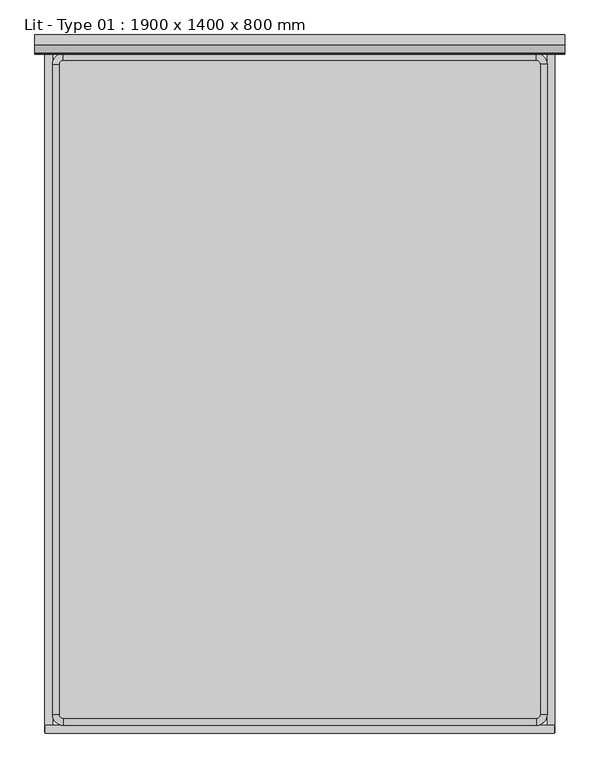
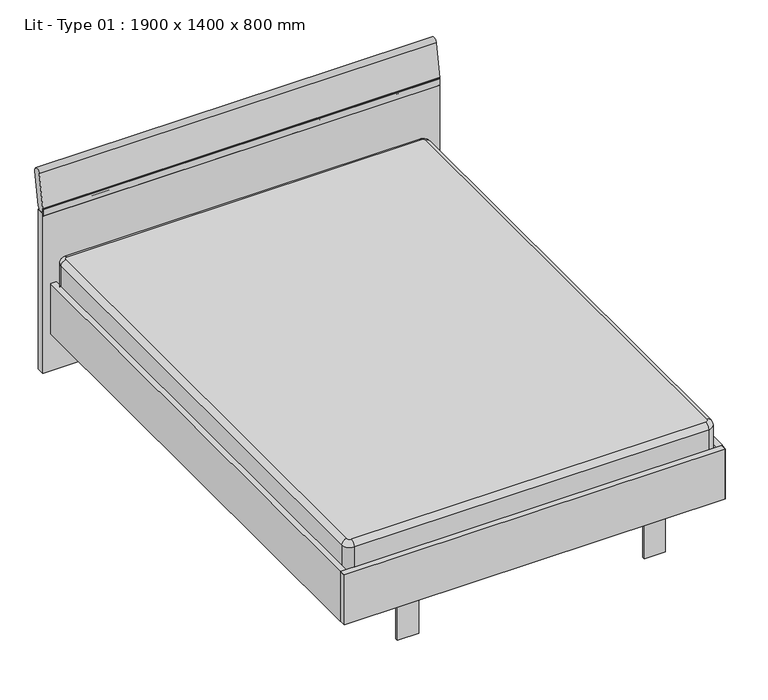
"""IFC4 building model written with IfcOpenShell, lengths in millimetres: furniture geometry, Lit - Type 01 : 1900 x 1400 x 800 mm."""

from ifc_helpers import new_model, si_unit, point, frame, frame_2d, origin, origin_with_axes, place, context, project, spatial, polyline, circle_curve, ellipse_curve, trimmed, segment, composite_curve, outline, extrude, faceted_brep, source, transform, mapped, element, save
from ifc_brep_helpers import plane_surface, cylinder_surface, revolved_surface, advanced_brep


def lit_type_01_1900_x_1400_x_800_mm_54b6f71a(model_context):
    return source(origin(), model_context, "Body", "SolidModel", [
        faceted_brep([(720.5857864, -1922.0, 150.0), (720.5857864, -1922.0, 350.0), (-720.5857864, -1922.0, 350.0), (-720.5857864, -1922.0, 150.0), (720.5857864, -1900.0, 350.0), (720.5857864, -1900.0, 150.0), (-720.5857864, -1900.0, 150.0), (-720.5857864, -1900.0, 350.0), (722.0, -1901.4142136, 348.5857864), (722.0, -1920.5857864, 348.5857864), (722.0, -1920.5857864, 151.4142136), (722.0, -1901.4142136, 151.4142136), (-722.0, -1920.5857864, 348.5857864), (-722.0, -1901.4142136, 348.5857864), (-722.0, -1901.4142136, 151.4142136), (-722.0, -1920.5857864, 151.4142136)], [[[0, 1, 2, 3]], [[4, 5, 6, 7]], [[8, 9, 10, 11]], [[5, 0, 3, 6]], [[12, 13, 14, 15]], [[1, 4, 7, 2]], [[8, 4, 1, 9]], [[4, 8, 11, 5]], [[5, 11, 10, 0]], [[9, 1, 0, 10]], [[12, 2, 7, 13]], [[2, 12, 15, 3]], [[3, 15, 14, 6]], [[13, 7, 6, 14]]]),
        extrude(outline(polyline([(-722.0, 0.0), (-700.0, 0.0), (-700.0, -1900.0), (-720.5857864, -1900.0), (-722.0, -1898.5857864), (-722.0, 0.0)])), frame((0.0, 0.0, 150.0), z_axis=(0.0, 0.0, 1.0), x_axis=(1.0, 0.0, 0.0)), (0.0, 0.0, 1.0), 200.0),
        extrude(outline(polyline([(700.0, 0.0), (722.0, 0.0), (722.0, -1898.5857864), (720.5857864, -1900.0), (700.0, -1900.0), (700.0, 0.0)])), frame((0.0, 0.0, 150.0), z_axis=(0.0, 0.0, 1.0), x_axis=(1.0, 0.0, 0.0)), (0.0, 0.0, 1.0), 200.0),
        advanced_brep(
        [(-680.0, -1870.0, 450.0), (-670.0, -1880.0, 450.0), (670.0, -1880.0, 450.0), (680.0, -1870.0, 450.0), (680.0, -30.0, 450.0), (670.0, -20.0, 450.0), (-670.0, -20.0, 450.0), (-680.0, -30.0, 450.0), (670.0, 0.0, 200.0), (700.0, -30.0, 200.0), (700.0, -1870.0, 200.0), (670.0, -1900.0, 200.0), (-670.0, -1900.0, 200.0), (-700.0, -1870.0, 200.0), (-700.0, -30.0, 200.0), (-670.0, 0.0, 200.0), (-670.0, 0.0, 430.0), (670.0, 0.0, 430.0), (-700.0, -30.0, 429.9999998), (-700.0, -1870.0, 429.9999998), (-670.0, -1900.0, 429.9999998), (670.0, -1900.0, 430.0), (700.0, -1870.0, 429.9999998), (700.0, -30.0, 430.0)],
        [
            (0, 1, circle_curve(frame((-670.0, -1870.0, 450.0), z_axis=(0.0, 0.0, 1.0), x_axis=(-1.0, 0.0, 0.0)), 10.0)),
            (1, 2),
            (2, 3, circle_curve(frame((670.0, -1870.0, 450.0), z_axis=(0.0, 0.0, 1.0), x_axis=(0.0, -1.0, 0.0)), 10.0)),
            (3, 4),
            (4, 5, circle_curve(frame((670.0, -30.0, 450.0), z_axis=(0.0, 0.0, 1.0), x_axis=(1.0, 0.0, 0.0)), 10.0)),
            (5, 6),
            (6, 7, circle_curve(frame((-670.0, -30.0, 450.0), z_axis=(0.0, 0.0, 1.0), x_axis=(0.0, 1.0, 0.0)), 10.0)),
            (7, 0),
            (8, 9, circle_curve(frame((670.0, -30.0, 200.0), z_axis=(0.0, 0.0, -1.0), x_axis=(-1.0, 0.0, 0.0)), 30.0)),
            (9, 10),
            (10, 11, circle_curve(frame((670.0, -1870.0, 200.0), z_axis=(0.0, 0.0, -1.0), x_axis=(-1.0, 0.0, 0.0)), 30.0)),
            (11, 12),
            (12, 13, circle_curve(frame((-670.0, -1870.0, 200.0), z_axis=(0.0, 0.0, -1.0), x_axis=(-1.0, 0.0, 0.0)), 30.0)),
            (13, 14),
            (14, 15, circle_curve(frame((-670.0, -30.0, 200.0), z_axis=(0.0, 0.0, -1.0), x_axis=(-1.0, 0.0, 0.0)), 30.0)),
            (15, 8),
            (15, 16),
            (16, 17),
            (17, 8),
            (14, 18),
            (18, 16, circle_curve(frame((-670.0, -30.0, 430.0), z_axis=(0.0, 0.0, -1.0), x_axis=(-1.0, 0.0, 0.0)), 30.0)),
            (13, 19),
            (19, 18),
            (12, 20),
            (20, 19, circle_curve(frame((-670.0, -1870.0, 430.0), z_axis=(0.0, 0.0, -1.0), x_axis=(-1.0, 0.0, 0.0)), 30.0)),
            (11, 21),
            (21, 20),
            (10, 22),
            (22, 21, circle_curve(frame((670.0, -1870.0, 430.0), z_axis=(0.0, 0.0, -1.0), x_axis=(-1.0, 0.0, 0.0)), 30.0)),
            (9, 23),
            (23, 22),
            (17, 23, circle_curve(frame((670.0, -30.0, 430.0), z_axis=(0.0, 0.0, -1.0), x_axis=(-1.0, 0.0, 0.0)), 30.0)),
            (20, 1, circle_curve(frame((-670.0, -1880.0, 430.0), z_axis=(-1.0, 0.0, 0.0), x_axis=(0.0, 1.0, 0.0)), 20.0)),
            (0, 19, circle_curve(frame((-680.0, -1870.0, 430.0), z_axis=(0.0, -1.0, 0.0), x_axis=(1.0, 0.0, 0.0)), 20.0)),
            (21, 2, circle_curve(frame((670.0, -1880.0, 430.0), z_axis=(-1.0, 0.0, 0.0), x_axis=(0.0, 1.0, 0.0)), 20.0)),
            (22, 3, circle_curve(frame((680.0, -1870.0, 430.0), z_axis=(0.0, -1.0, 0.0), x_axis=(-1.0, 0.0, 0.0)), 20.0)),
            (23, 4, circle_curve(frame((680.0, -30.0, 430.0), z_axis=(0.0, -1.0, 0.0), x_axis=(-1.0, 0.0, 0.0)), 20.0)),
            (17, 5, circle_curve(frame((670.0, -20.0, 430.0), z_axis=(1.0, 0.0, 0.0), x_axis=(0.0, -1.0, 0.0)), 20.0)),
            (16, 6, circle_curve(frame((-670.0, -20.0, 430.0), z_axis=(1.0, 0.0, 0.0), x_axis=(0.0, -1.0, 0.0)), 20.0)),
            (18, 7, circle_curve(frame((-680.0, -30.0, 430.0), z_axis=(0.0, 1.0, 0.0), x_axis=(1.0, 0.0, 0.0)), 20.0)),
        ],
        [
            plane_surface(frame((-670.0, 0.0, 450.0), z_axis=(0.0, 0.0, 1.0), x_axis=(-1.0, 0.0, 0.0))),
            plane_surface(frame((-670.0, 0.0, 200.0), z_axis=(0.0, 0.0, -1.0), x_axis=(1.0, 0.0, 0.0))),
            plane_surface(frame((670.0, 0.0, 450.0), z_axis=(0.0, 1.0, 0.0), x_axis=(0.0, 0.0, -1.0))),
            cylinder_surface(frame((-670.0, -30.0, 200.0), z_axis=(0.0, 0.0, 1.0), x_axis=(-1.0, 0.0, 0.0)), 30.0),
            plane_surface(frame((-700.0, -30.0, 450.0), z_axis=(-1.0, 0.0, 0.0), x_axis=(0.0, 0.0, -1.0))),
            cylinder_surface(frame((-670.0, -1870.0, 200.0), z_axis=(0.0, 0.0, 1.0), x_axis=(-1.0, 0.0, 0.0)), 30.0),
            plane_surface(frame((-670.0, -1900.0, 450.0), z_axis=(0.0, -1.0, 0.0), x_axis=(0.0, 0.0, -1.0))),
            cylinder_surface(frame((670.0, -1870.0, 200.0), z_axis=(0.0, 0.0, 1.0), x_axis=(-1.0, 0.0, 0.0)), 30.0),
            plane_surface(frame((700.0, -1870.0, 450.0), z_axis=(1.0, 0.0, 0.0), x_axis=(0.0, 0.0, -1.0))),
            cylinder_surface(frame((670.0, -30.0, 200.0), z_axis=(0.0, 0.0, 1.0), x_axis=(-1.0, 0.0, 0.0)), 30.0),
            revolved_surface(trimmed(ellipse_curve(frame((-680.0, -1870.0, 430.0), z_axis=(0.0, 1.0, 0.0), x_axis=(1.0, 0.0, 0.0)), 20.0, 20.0), [point((-700.0, -1870.0, 430.0))], [point((-680.0, -1870.0, 450.0))], True, "CARTESIAN"), (-670.0, -1870.0, 450.0), (0.0, 0.0, 1.0)),
            cylinder_surface(frame((-670.0, -1880.0, 430.0), z_axis=(1.0, 0.0, 0.0), x_axis=(0.0, 1.0, 0.0)), 20.0),
            revolved_surface(trimmed(ellipse_curve(frame((670.0, -1880.0, 430.0), z_axis=(-1.0, 0.0, 0.0), x_axis=(0.0, 1.0, 0.0)), 20.0, 20.0), [point((670.0, -1900.0, 430.0))], [point((670.0, -1880.0, 450.0))], True, "CARTESIAN"), (670.0, -1870.0, 450.0), (0.0, 0.0, 1.0)),
            cylinder_surface(frame((680.0, -1870.0, 430.0), z_axis=(0.0, 1.0, 0.0), x_axis=(-1.0, 0.0, 0.0)), 20.0),
            revolved_surface(trimmed(ellipse_curve(frame((680.0, -30.0, 430.0), z_axis=(0.0, -1.0, 0.0), x_axis=(-1.0, 0.0, 0.0)), 20.0, 20.0), [point((700.0, -30.0, 430.0))], [point((680.0, -30.0, 450.0))], True, "CARTESIAN"), (670.0, -30.0, 450.0), (0.0, 0.0, 1.0)),
            cylinder_surface(frame((670.0, -20.0, 430.0), z_axis=(-1.0, 0.0, 0.0), x_axis=(0.0, -1.0, 0.0)), 20.0),
            revolved_surface(trimmed(ellipse_curve(frame((-670.0, -20.0, 430.0), z_axis=(1.0, 0.0, 0.0), x_axis=(0.0, -1.0, 0.0)), 20.0, 20.0), [point((-670.0, 0.0, 430.0))], [point((-670.0, -20.0, 450.0))], True, "CARTESIAN"), (-670.0, -30.0, 450.0), (0.0, 0.0, 1.0)),
            cylinder_surface(frame((-680.0, -30.0, 430.0), z_axis=(0.0, -1.0, 0.0), x_axis=(1.0, 0.0, 0.0)), 20.0),
        ],
        [
            (0, [[1, 2, 3, 4, 5, 6, 7, 8]]),
            (1, [[9, 10, 11, 12, 13, 14, 15, 16]]),
            (2, [[-16, 17, 18, 19]]),
            (3, [[-15, 20, 21, -17]]),
            (4, [[-14, 22, 23, -20]]),
            (5, [[-13, 24, 25, -22]]),
            (6, [[-12, 26, 27, -24]]),
            (7, [[-11, 28, 29, -26]]),
            (8, [[-10, 30, 31, -28]]),
            (9, [[-9, -19, 32, -30]]),
            (10, [[33, -1, 34, -25]]),
            (11, [[-33, -27, 35, -2]]),
            (12, [[-35, -29, 36, -3]]),
            (13, [[-36, -31, 37, -4]]),
            (14, [[-37, -32, 38, -5]]),
            (15, [[-38, -18, 39, -6]]),
            (16, [[-39, -21, 40, -7]]),
            (17, [[-34, -8, -40, -23]]),
        ],
    ),
        extrude(outline(composite_curve([segment(trimmed(circle_curve(frame_2d((37.5742631, 782.9795436)), 15.0), [point((22.8021468, 785.5842662))], [point((52.3463794, 780.3748209))], False, "CARTESIAN"), True, "CONTINUOUS"), segment(polyline([(52.3463794, 780.3748209), (29.7721163, 652.349813)]), True, "CONTINUOUS"), segment(trimmed(circle_curve(frame_2d((15.0, 654.9545357)), 15.0), [point((29.7721163, 652.349813))], [point((0.2278837, 657.5592583))], False, "CARTESIAN"), True, "CONTINUOUS"), segment(polyline([(0.2278837, 657.5592583), (22.8021468, 785.5842662)]), True, "CONTINUOUS")], self_intersect=False)), frame((-750.0, 0.0, 0.0), z_axis=(1.0, 0.0, 0.0), x_axis=(0.0, 1.0, 0.0)), (0.0, 0.0, 1.0), 1500.0),
        extrude(outline(polyline([(-750.0, 30.0), (750.0, 30.0), (750.0, 0.0), (-750.0, 0.0), (-750.0, 30.0)])), origin_with_axes(), (0.0, 0.0, 1.0), 640.0),
        extrude(outline(composite_curve([segment(polyline([(-1890.0, 0.0), (-1900.0, 0.0), (-1900.0, 185.0)]), True, "CONTINUOUS"), segment(trimmed(circle_curve(frame_2d((-1885.0, 185.0)), 15.0), [point((-1900.0, 185.0))], [point((-1885.0, 200.0))], False, "CARTESIAN"), True, "CONTINUOUS"), segment(polyline([(-1885.0, 200.0), (0.0, 200.0), (0.0, 190.0), (-1885.0, 190.0)]), True, "CONTINUOUS"), segment(trimmed(circle_curve(frame_2d((-1885.0, 185.0)), 5.0), [point((-1885.0, 190.0))], [point((-1890.0, 185.0))], True, "CARTESIAN"), True, "CONTINUOUS"), segment(polyline([(-1890.0, 185.0), (-1890.0, 0.0)]), True, "CONTINUOUS")], self_intersect=False)), frame((-506.6666667, 0.0, 0.0), z_axis=(1.0, 0.0, 0.0), x_axis=(0.0, 1.0, 0.0)), (0.0, 0.0, 1.0), 80.0),
        extrude(outline(composite_curve([segment(polyline([(-1890.0, 0.0), (-1900.0, 0.0), (-1900.0, 185.0)]), True, "CONTINUOUS"), segment(trimmed(circle_curve(frame_2d((-1885.0, 185.0)), 15.0), [point((-1900.0, 185.0))], [point((-1885.0, 200.0))], False, "CARTESIAN"), True, "CONTINUOUS"), segment(polyline([(-1885.0, 200.0), (0.0, 200.0), (0.0, 190.0), (-1885.0, 190.0)]), True, "CONTINUOUS"), segment(trimmed(circle_curve(frame_2d((-1885.0, 185.0)), 5.0), [point((-1885.0, 190.0))], [point((-1890.0, 185.0))], True, "CARTESIAN"), True, "CONTINUOUS"), segment(polyline([(-1890.0, 185.0), (-1890.0, 0.0)]), True, "CONTINUOUS")], self_intersect=False)), frame((426.6666667, 0.0, 0.0), z_axis=(1.0, 0.0, 0.0), x_axis=(0.0, 1.0, 0.0)), (0.0, 0.0, 1.0), 80.0),
        extrude(outline(composite_curve([segment(polyline([(0.0, 640.0), (0.0, 630.0), (-1.2985029, 630.0), (-2.0085632, 630.7100603), (-2.0085632, 656.5656482), (-1.5049835, 659.4215904), (-0.68241, 659.9975626), (0.5961594, 659.7721163), (0.2042296, 657.4213512)]), True, "CONTINUOUS"), segment(trimmed(circle_curve(frame_2d((15.0, 654.9545357)), 15.0), [point((0.2042296, 657.4213512))], [point((13.8330112, 640.0))], True, "CARTESIAN"), True, "CONTINUOUS"), segment(polyline([(13.8330112, 640.0), (0.0, 640.0)]), True, "CONTINUOUS")], self_intersect=False)), frame((-750.0, 0.0, 0.0), z_axis=(1.0, 0.0, 0.0), x_axis=(0.0, 1.0, 0.0)), (0.0, 0.0, 1.0), 1500.0),
    ])


if __name__ == "__main__":
    model = new_model("IFC4")
    model_context = context("Model", 3, world=origin())
    ifc_project = project(units=[si_unit("LENGTHUNIT", "METRE", prefix="MILLI")], contexts=[model_context])
    site = spatial("IfcSite", under=ifc_project)
    building = spatial("IfcBuilding", under=site)
    placement = place(None, origin())
    lit_type_01_1900_x_1400_x_800_mm_shape = lit_type_01_1900_x_1400_x_800_mm_54b6f71a(model_context)
    element("IfcFurniture", 1, ObjectType="Lit - Type 01 : 1900 x 1400 x 800 mm", at=placement, inside=building, context=model_context, shape_type="MappedRepresentation", body=[
        mapped(lit_type_01_1900_x_1400_x_800_mm_shape, transform((0.0, 0.0, 0.0), x_axis=(1.0, 0.0, 0.0), y_axis=(0.0, 1.0, 0.0), z_axis=(0.0, 0.0, 1.0))),
    ])
    save(model, "model.ifc")
